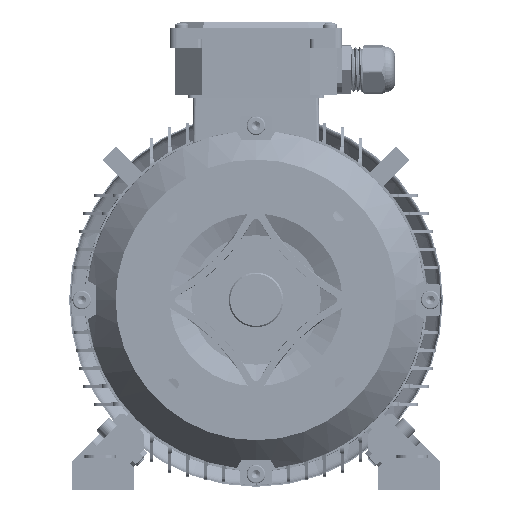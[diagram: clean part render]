
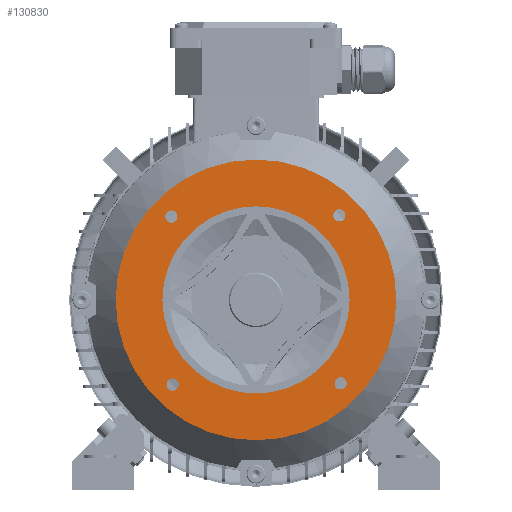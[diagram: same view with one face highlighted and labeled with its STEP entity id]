
A CAD part, front view. The second image highlights one B-rep face of the part: STEP entity #130830.
In plain terms, the highlighted planar face has unit normal (0, -1, 0).
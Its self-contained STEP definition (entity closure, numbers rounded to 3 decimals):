
#647 = CARTESIAN_POINT ( 'NONE',  ( 0., 3.5, 0. ) ) ;
#717 = CIRCLE ( 'NONE', #110107, 4.25 ) ;
#1012 = CARTESIAN_POINT ( 'NONE',  ( -57.886, 3.5, -54.533 ) ) ;
#3204 = FACE_BOUND ( 'NONE', #10747, .T. ) ;
#5284 = VERTEX_POINT ( 'NONE', #80287 ) ;
#5445 = AXIS2_PLACEMENT_3D ( 'NONE', #37390, #113743, #48400 ) ;
#6800 = ORIENTED_EDGE ( 'NONE', *, *, #81649, .T. ) ;
#9581 = CIRCLE ( 'NONE', #74042, 4.25 ) ;
#10226 = AXIS2_PLACEMENT_3D ( 'NONE', #89303, #23951, #100240 ) ;
#10258 = CIRCLE ( 'NONE', #5445, 4.25 ) ;
#10261 = EDGE_LOOP ( 'NONE', ( #110710, #119203 ) ) ;
#10747 = EDGE_LOOP ( 'NONE', ( #63722, #133702 ) ) ;
#11164 = EDGE_CURVE ( 'NONE', #15820, #80786, #49263, .T. ) ;
#11297 = CARTESIAN_POINT ( 'NONE',  ( 57.886, 3.5, 54.533 ) ) ;
#11612 = DIRECTION ( 'NONE',  ( 0., 0., -1. ) ) ;
#11961 = DIRECTION ( 'NONE',  ( 0., -1., 0. ) ) ;
#13969 = CARTESIAN_POINT ( 'NONE',  ( 0., 3.5, 65. ) ) ;
#14163 = EDGE_LOOP ( 'NONE', ( #97400, #109601 ) ) ;
#14308 = VERTEX_POINT ( 'NONE', #1012 ) ;
#14812 = DIRECTION ( 'NONE',  ( 0., -1., 0. ) ) ;
#14909 = DIRECTION ( 'NONE',  ( 0., -1., 0. ) ) ;
#15293 = VERTEX_POINT ( 'NONE', #21071 ) ;
#15820 = VERTEX_POINT ( 'NONE', #95786 ) ;
#18022 = AXIS2_PLACEMENT_3D ( 'NONE', #80194, #14909, #91157 ) ;
#18770 = AXIS2_PLACEMENT_3D ( 'NONE', #647, #76883, #11612 ) ;
#18841 = DIRECTION ( 'NONE',  ( 0., 0., -1. ) ) ;
#21071 = CARTESIAN_POINT ( 'NONE',  ( 58.783, 3.5, -53.636 ) ) ;
#22987 = AXIS2_PLACEMENT_3D ( 'NONE', #77262, #11961, #88255 ) ;
#23951 = DIRECTION ( 'NONE',  ( 0., -1., 0. ) ) ;
#26618 = DIRECTION ( 'NONE',  ( 0., -1., 0. ) ) ;
#27508 = EDGE_CURVE ( 'NONE', #14308, #5284, #717, .T. ) ;
#28852 = ORIENTED_EDGE ( 'NONE', *, *, #43151, .F. ) ;
#29170 = CARTESIAN_POINT ( 'NONE',  ( -57.886, 3.5, -58.783 ) ) ;
#29285 = PLANE ( 'NONE',  #61150 ) ;
#31947 = CIRCLE ( 'NONE', #121335, 65. ) ;
#32751 = VERTEX_POINT ( 'NONE', #114254 ) ;
#34342 = DIRECTION ( 'NONE',  ( 0., -1., 0. ) ) ;
#37390 = CARTESIAN_POINT ( 'NONE',  ( 58.783, 3.5, -57.886 ) ) ;
#38248 = EDGE_CURVE ( 'NONE', #113505, #32751, #140772, .T. ) ;
#38654 = DIRECTION ( 'NONE',  ( 0., -1., 0. ) ) ;
#40125 = DIRECTION ( 'NONE',  ( 0., 0., -1. ) ) ;
#40462 = CARTESIAN_POINT ( 'NONE',  ( 0., 3.5, 0. ) ) ;
#43151 = EDGE_CURVE ( 'NONE', #32751, #113505, #133712, .T. ) ;
#44115 = CARTESIAN_POINT ( 'NONE',  ( 0., 3.5, 0. ) ) ;
#46009 = EDGE_LOOP ( 'NONE', ( #131021, #6800 ) ) ;
#46946 = AXIS2_PLACEMENT_3D ( 'NONE', #91945, #26618, #102923 ) ;
#48400 = DIRECTION ( 'NONE',  ( 0., 0., -1. ) ) ;
#48585 = CIRCLE ( 'NONE', #10226, 4.25 ) ;
#49263 = CIRCLE ( 'NONE', #127475, 97.5 ) ;
#49670 = CIRCLE ( 'NONE', #18770, 97.5 ) ;
#51417 = DIRECTION ( 'NONE',  ( 0., 0., -1. ) ) ;
#54841 = VERTEX_POINT ( 'NONE', #109642 ) ;
#55100 = DIRECTION ( 'NONE',  ( 0., 0., -1. ) ) ;
#56943 = VERTEX_POINT ( 'NONE', #11297 ) ;
#58366 = CIRCLE ( 'NONE', #117543, 4.25 ) ;
#59235 = ORIENTED_EDGE ( 'NONE', *, *, #38248, .F. ) ;
#61150 = AXIS2_PLACEMENT_3D ( 'NONE', #73223, #84205, #18841 ) ;
#63722 = ORIENTED_EDGE ( 'NONE', *, *, #87732, .F. ) ;
#65932 = EDGE_CURVE ( 'NONE', #54841, #126804, #135146, .T. ) ;
#71836 = CARTESIAN_POINT ( 'NONE',  ( -58.783, 3.5, 62.136 ) ) ;
#73223 = CARTESIAN_POINT ( 'NONE',  ( 65., 3.5, 0. ) ) ;
#74042 = AXIS2_PLACEMENT_3D ( 'NONE', #29170, #105516, #40125 ) ;
#76883 = DIRECTION ( 'NONE',  ( 0., -1., 0. ) ) ;
#77262 = CARTESIAN_POINT ( 'NONE',  ( -58.783, 3.5, 57.886 ) ) ;
#78483 = EDGE_LOOP ( 'NONE', ( #84732, #125886 ) ) ;
#80097 = CARTESIAN_POINT ( 'NONE',  ( 58.783, 3.5, -57.886 ) ) ;
#80194 = CARTESIAN_POINT ( 'NONE',  ( -58.783, 3.5, 57.886 ) ) ;
#80287 = CARTESIAN_POINT ( 'NONE',  ( -57.886, 3.5, -63.033 ) ) ;
#80351 = EDGE_CURVE ( 'NONE', #56943, #96432, #136820, .T. ) ;
#80688 = CARTESIAN_POINT ( 'NONE',  ( 58.783, 3.5, -62.136 ) ) ;
#80786 = VERTEX_POINT ( 'NONE', #89937 ) ;
#81649 = EDGE_CURVE ( 'NONE', #80786, #15820, #49670, .T. ) ;
#83368 = CARTESIAN_POINT ( 'NONE',  ( 57.886, 3.5, 63.033 ) ) ;
#84205 = DIRECTION ( 'NONE',  ( 0., -1., 0. ) ) ;
#84732 = ORIENTED_EDGE ( 'NONE', *, *, #65932, .F. ) ;
#85189 = EDGE_CURVE ( 'NONE', #15293, #133293, #10258, .T. ) ;
#86773 = FACE_BOUND ( 'NONE', #14163, .T. ) ;
#87732 = EDGE_CURVE ( 'NONE', #5284, #14308, #9581, .T. ) ;
#88255 = DIRECTION ( 'NONE',  ( 0., 0., -1. ) ) ;
#89303 = CARTESIAN_POINT ( 'NONE',  ( 57.886, 3.5, 58.783 ) ) ;
#89937 = CARTESIAN_POINT ( 'NONE',  ( 0., 3.5, -97.5 ) ) ;
#91062 = DIRECTION ( 'NONE',  ( 0., 0., -1. ) ) ;
#91157 = DIRECTION ( 'NONE',  ( 0., 0., -1. ) ) ;
#91945 = CARTESIAN_POINT ( 'NONE',  ( 57.886, 3.5, 58.783 ) ) ;
#95786 = CARTESIAN_POINT ( 'NONE',  ( 0., 3.5, 97.5 ) ) ;
#96432 = VERTEX_POINT ( 'NONE', #83368 ) ;
#97400 = ORIENTED_EDGE ( 'NONE', *, *, #137958, .F. ) ;
#99703 = CARTESIAN_POINT ( 'NONE',  ( 0., 3.5, 0. ) ) ;
#100240 = DIRECTION ( 'NONE',  ( 0., 0., -1. ) ) ;
#102923 = DIRECTION ( 'NONE',  ( 0., 0., -1. ) ) ;
#104046 = CARTESIAN_POINT ( 'NONE',  ( -57.886, 3.5, -58.783 ) ) ;
#105075 = EDGE_LOOP ( 'NONE', ( #28852, #59235 ) ) ;
#105516 = DIRECTION ( 'NONE',  ( 0., -1., 0. ) ) ;
#109601 = ORIENTED_EDGE ( 'NONE', *, *, #85189, .F. ) ;
#109642 = CARTESIAN_POINT ( 'NONE',  ( 0., 3.5, -65. ) ) ;
#110107 = AXIS2_PLACEMENT_3D ( 'NONE', #104046, #38654, #115018 ) ;
#110710 = ORIENTED_EDGE ( 'NONE', *, *, #80351, .F. ) ;
#110720 = DIRECTION ( 'NONE',  ( 0., 0., -1. ) ) ;
#112388 = FACE_BOUND ( 'NONE', #78483, .T. ) ;
#113505 = VERTEX_POINT ( 'NONE', #71836 ) ;
#113743 = DIRECTION ( 'NONE',  ( 0., -1., 0. ) ) ;
#114254 = CARTESIAN_POINT ( 'NONE',  ( -58.783, 3.5, 53.636 ) ) ;
#115018 = DIRECTION ( 'NONE',  ( 0., 0., -1. ) ) ;
#115777 = FACE_OUTER_BOUND ( 'NONE', #46009, .T. ) ;
#116783 = DIRECTION ( 'NONE',  ( 0., -1., 0. ) ) ;
#117543 = AXIS2_PLACEMENT_3D ( 'NONE', #80097, #14812, #91062 ) ;
#119190 = FACE_BOUND ( 'NONE', #105075, .T. ) ;
#119203 = ORIENTED_EDGE ( 'NONE', *, *, #133153, .F. ) ;
#120474 = DIRECTION ( 'NONE',  ( 0., -1., 0. ) ) ;
#120512 = AXIS2_PLACEMENT_3D ( 'NONE', #44115, #120474, #55100 ) ;
#121335 = AXIS2_PLACEMENT_3D ( 'NONE', #99703, #34342, #110720 ) ;
#125886 = ORIENTED_EDGE ( 'NONE', *, *, #129148, .F. ) ;
#126804 = VERTEX_POINT ( 'NONE', #13969 ) ;
#127475 = AXIS2_PLACEMENT_3D ( 'NONE', #40462, #116783, #51417 ) ;
#129148 = EDGE_CURVE ( 'NONE', #126804, #54841, #31947, .T. ) ;
#130830 = ADVANCED_FACE ( 'NONE', ( #119190, #141344, #86773, #3204, #115777, #112388 ), #29285, .T. ) ;
#131021 = ORIENTED_EDGE ( 'NONE', *, *, #11164, .T. ) ;
#133153 = EDGE_CURVE ( 'NONE', #96432, #56943, #48585, .T. ) ;
#133293 = VERTEX_POINT ( 'NONE', #80688 ) ;
#133702 = ORIENTED_EDGE ( 'NONE', *, *, #27508, .F. ) ;
#133712 = CIRCLE ( 'NONE', #22987, 4.25 ) ;
#135146 = CIRCLE ( 'NONE', #120512, 65. ) ;
#136820 = CIRCLE ( 'NONE', #46946, 4.25 ) ;
#137958 = EDGE_CURVE ( 'NONE', #133293, #15293, #58366, .T. ) ;
#140772 = CIRCLE ( 'NONE', #18022, 4.25 ) ;
#141344 = FACE_BOUND ( 'NONE', #10261, .T. ) ;
